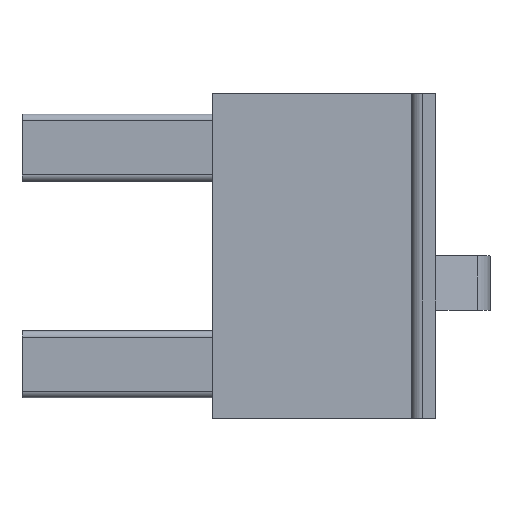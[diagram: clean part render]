
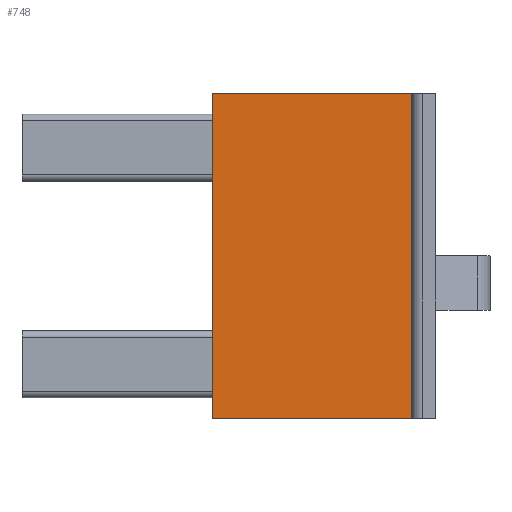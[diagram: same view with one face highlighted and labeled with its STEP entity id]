
A CAD part, top view. The second image highlights one B-rep face of the part: STEP entity #748.
In plain terms, the highlighted planar face has unit normal (0, 0, 1).
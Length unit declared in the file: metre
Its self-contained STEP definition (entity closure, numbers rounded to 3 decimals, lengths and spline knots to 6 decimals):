
#161=ORIENTED_EDGE('',*,*,#348,.F.);
#162=ORIENTED_EDGE('',*,*,#298,.F.);
#163=ORIENTED_EDGE('',*,*,#355,.F.);
#164=ORIENTED_EDGE('',*,*,#340,.F.);
#298=EDGE_CURVE('',#405,#406,#473,.T.);
#340=EDGE_CURVE('',#439,#440,#495,.T.);
#348=EDGE_CURVE('',#406,#439,#500,.T.);
#355=EDGE_CURVE('',#440,#405,#504,.T.);
#405=VERTEX_POINT('',#1102);
#406=VERTEX_POINT('',#1104);
#439=VERTEX_POINT('',#5150);
#440=VERTEX_POINT('',#5152);
#473=LINE('',#1103,#539);
#495=LINE('',#5151,#561);
#500=LINE('',#5166,#566);
#504=LINE('',#5178,#570);
#539=VECTOR('',#885,1.);
#561=VECTOR('',#941,1.);
#566=VECTOR('',#954,1.);
#570=VECTOR('',#966,1.);
#616=EDGE_LOOP('',(#161,#162,#163,#164));
#672=FACE_BOUND('',#616,.T.);
#717=PLANE('',#823);
#748=ADVANCED_FACE('',(#672),#717,.T.);
#823=AXIS2_PLACEMENT_3D('',#5179,#967,#968);
#885=DIRECTION('',(0.,1.,0.));
#941=DIRECTION('',(0.,-1.,0.));
#954=DIRECTION('',(1.,0.,0.));
#966=DIRECTION('',(-1.,0.,0.));
#967=DIRECTION('',(0.,0.,1.));
#968=DIRECTION('',(-1.,0.,0.));
#1102=CARTESIAN_POINT('',(-0.006,-0.06,0.006));
#1103=CARTESIAN_POINT('',(-0.006,-0.03,0.006));
#1104=CARTESIAN_POINT('',(-0.006,0.,0.006));
#5150=CARTESIAN_POINT('',(0.03225,0.,0.006));
#5151=CARTESIAN_POINT('',(0.03225,-0.03,0.006));
#5152=CARTESIAN_POINT('',(0.03225,-0.06,0.006));
#5166=CARTESIAN_POINT('',(0.03375,0.,0.006));
#5178=CARTESIAN_POINT('',(0.03375,-0.06,0.006));
#5179=CARTESIAN_POINT('',(-0.010375,0.,0.006));
